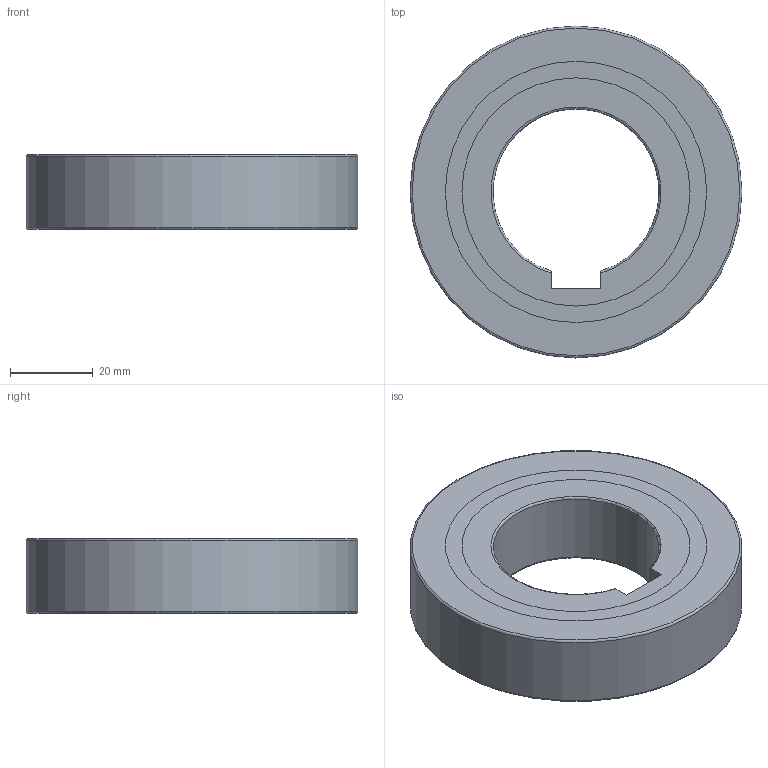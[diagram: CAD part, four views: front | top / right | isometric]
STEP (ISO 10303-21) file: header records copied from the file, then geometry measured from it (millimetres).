
FILE_DESCRIPTION(/* description */ (''),/* implementation_level */ '2;1');
FILE_NAME(/* name */ '301161 FKN 6208.stp',/* time_stamp */ '2016-11-24T09:07:13+01:00',/* author */ (''),/* organization */ (''),/* preprocessor_version */ 'ST-DEVELOPER v15',/* originating_system */ 'SIEMENS PLM Software NX 8.5',/* authorisation */ '');
FILE_SCHEMA (('CONFIG_CONTROL_DESIGN'));
Length unit declared in the file: millimetre
Products named in the file (3): ATE0000079_01; ATE0000110_01; ATE0000111_01
Assembly tree (2 placements, depth 2):
  ATE0000111_01
    ATE0000110_01
    ATE0000079_01
Bounding box: 80 x 80 x 18 mm (x, y, z)
Volume: 59179 mm3; surface area: 26624.6 mm2
Topology: 4 solids, 4 shells, 75 faces, 167 edges, 110 vertices
Faces by surface type: plane 47, cylinder 22, torus 6
Full cylindrical faces by diameter (mm): 55 x4, 59 x1, 61 x1, 62 x2, 63 x4, 80 x1
Entity records: 2320 total; most frequent: CARTESIAN_POINT 390, DIRECTION 358, ORIENTED_EDGE 284, EDGE_CURVE 142, AXIS2_PLACEMENT_3D 142, EDGE_LOOP 112, VERTEX_POINT 104, ADVANCED_FACE 75
